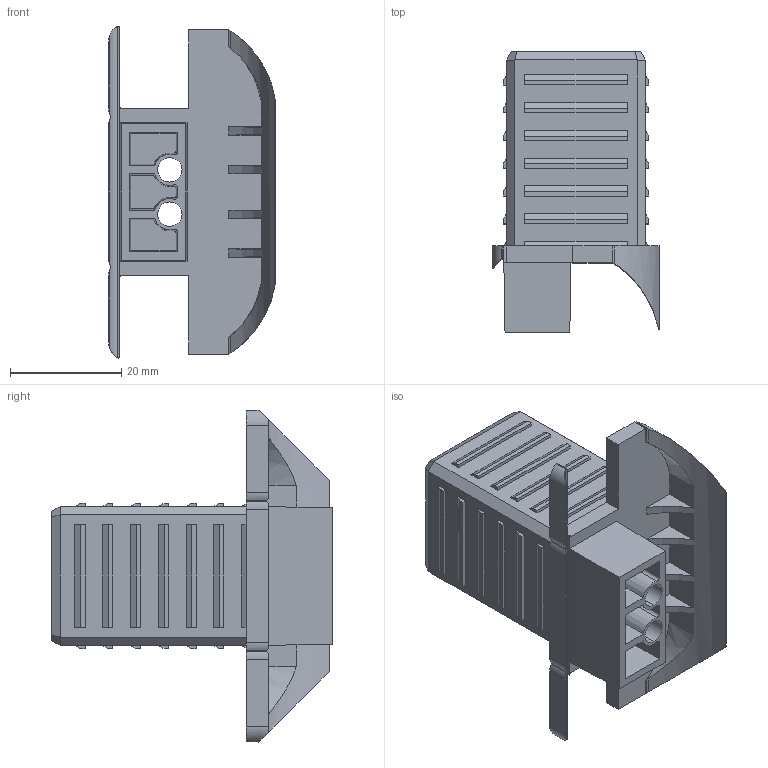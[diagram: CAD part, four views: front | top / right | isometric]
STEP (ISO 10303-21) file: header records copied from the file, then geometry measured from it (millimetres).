
FILE_DESCRIPTION (( 'STEP AP203' ), '1' );
FILE_NAME ('013.030.133.STEP', '2020-11-09T08:45:58', ( '' ), ( '' ), 'SwSTEP 2.0', 'SolidWorks 2018', '' );
FILE_SCHEMA (( 'CONFIG_CONTROL_DESIGN' ));
Length unit declared in the file: millimetre
Products named in the file (1): 013.030.133
Bounding box: 30 x 50.5 x 59.79 mm (x, y, z)
Volume: 13996.8 mm3; surface area: 14297.9 mm2
Topology: 1 solids, 1 shells, 300 faces, 787 edges, 520 vertices
Faces by surface type: plane 239, cylinder 45, cone 8, bspline 8
Entity records: 9398 total; most frequent: CARTESIAN_POINT 1971, ORIENTED_EDGE 1574, DIRECTION 1407, EDGE_CURVE 787, VECTOR 641, LINE 641, VERTEX_POINT 520, AXIS2_PLACEMENT_3D 383
